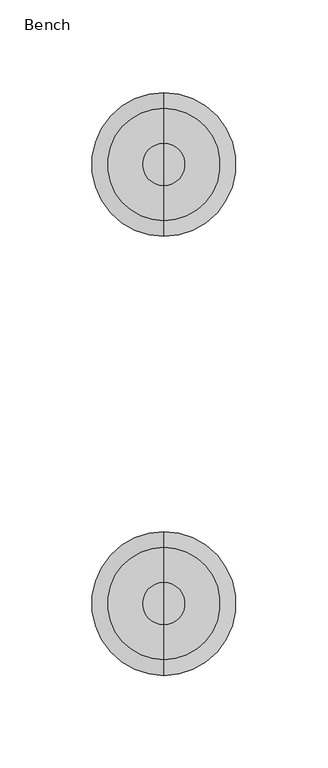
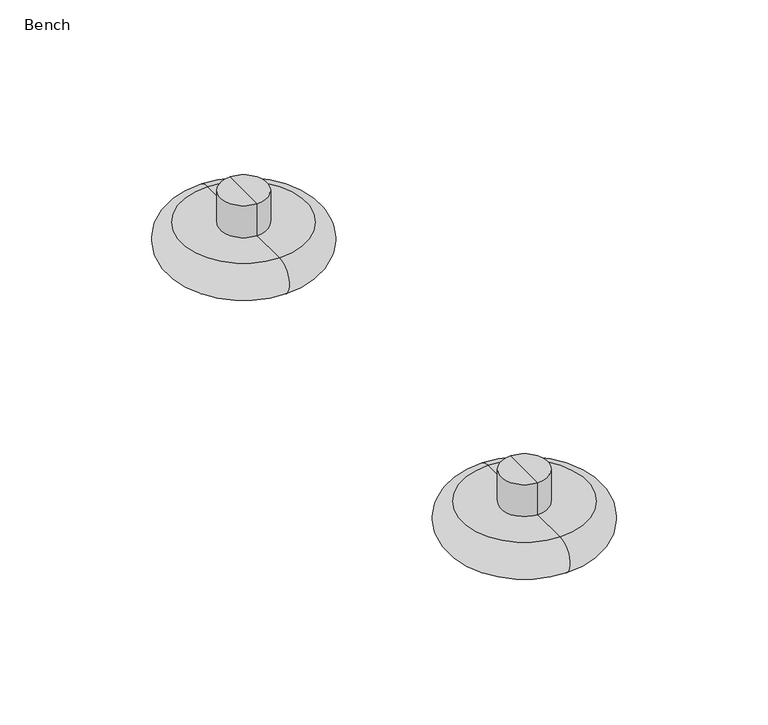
"""IFC4 building model written with IfcOpenShell, lengths in millimetres: furniture geometry, Steelcase Coalesse - Ripple - Seating - Upholstered Flat Bench : Bench."""

from ifc_helpers import new_model, si_unit, point, frame, origin, place, context, project, spatial, circle_curve, ellipse_curve, trimmed, source, transform, mapped, element, save
from ifc_brep_helpers import plane_surface, cylinder_surface, revolved_surface, advanced_brep


def bench_71243dd2(model_context):
    return source(origin(), model_context, "Body", "AdvancedBrep", [
        advanced_brep(
        [(139.1465165, -838.1401465, 33.6630229), (139.1465165, -815.4179869, 33.6630229), (139.1465165, -826.7790667, 33.6630229), (139.1465165, -838.1401465, 17.1812856), (139.1465165, -815.4179869, 17.1812856), (139.1465165, -857.148126, 17.1812856), (139.1465165, -796.4100074, 17.1812856), (139.1465165, -857.148126, 0.0), (139.1465165, -796.4100074, 0.0), (139.1465165, -826.7790667, 0.0)],
        [
            (0, 1, circle_curve(frame((139.1465165, -826.7790667, 33.6630229), z_axis=(0.0, 0.0, 1.0), x_axis=(0.0, 1.0, 0.0)), 11.3610798)),
            (1, 2),
            (2, 0),
            (1, 0, circle_curve(frame((139.1465165, -826.7790667, 33.6630229), z_axis=(0.0, 0.0, 1.0), x_axis=(0.0, 1.0, 0.0)), 11.3610798)),
            (3, 4, circle_curve(frame((139.1465165, -826.7790667, 17.1812856), z_axis=(0.0, 0.0, 1.0), x_axis=(0.0, 1.0, 0.0)), 11.3610798)),
            (4, 1),
            (0, 3),
            (4, 3, circle_curve(frame((139.1465165, -826.7790667, 17.1812856), z_axis=(0.0, 0.0, 1.0), x_axis=(0.0, 1.0, 0.0)), 11.3610798)),
            (5, 6, circle_curve(frame((139.1465165, -826.7790667, 17.1812856), z_axis=(0.0, 0.0, 1.0), x_axis=(0.0, 1.0, 0.0)), 30.3690593)),
            (6, 4),
            (3, 5),
            (6, 5, circle_curve(frame((139.1465165, -826.7790667, 17.1812856), z_axis=(0.0, 0.0, 1.0), x_axis=(0.0, 1.0, 0.0)), 30.3690593)),
            (7, 8, circle_curve(frame((139.1465165, -826.7790667, 0.0), z_axis=(0.0, 0.0, 1.0), x_axis=(0.0, 1.0, 0.0)), 30.3690593)),
            (8, 6, circle_curve(frame((139.1465165, -796.4100074, 8.5906428), z_axis=(1.0, 0.0, 0.0), x_axis=(0.0, -1.0, 0.0)), 8.5906428)),
            (5, 7, circle_curve(frame((139.1465165, -857.148126, 8.5906428), z_axis=(1.0, 0.0, 0.0), x_axis=(0.0, 1.0, 0.0)), 8.5906428)),
            (8, 7, circle_curve(frame((139.1465165, -826.7790667, 0.0), z_axis=(0.0, 0.0, 1.0), x_axis=(0.0, 1.0, 0.0)), 30.3690593)),
            (9, 8),
            (7, 9),
        ],
        [
            plane_surface(frame((139.1465165, -826.7790667, 33.6630229), z_axis=(0.0, 0.0, 1.0), x_axis=(0.0, 1.0, 0.0))),
            cylinder_surface(frame((139.1465165, -826.7790667, 34.264853), z_axis=(0.0, 0.0, -1.0), x_axis=(0.0, 1.0, 0.0)), 11.3610798),
            plane_surface(frame((139.1465165, -826.7790667, 17.1812856), z_axis=(0.0, 0.0, 1.0), x_axis=(0.0, 1.0, 0.0))),
            revolved_surface(trimmed(ellipse_curve(frame((139.1465165, -796.4100074, 8.5906428), z_axis=(-1.0, 0.0, 0.0), x_axis=(0.0, -1.0, 0.0)), 8.5906428, 8.5906428), [point((139.1465165, -796.4100074, 17.1812856))], [point((139.1465165, -796.4100074, 0.0))], True, "CARTESIAN"), (139.1465165, -826.7790667, 34.264853), (0.0, 0.0, -1.0)),
            plane_surface(frame((139.1465165, -826.7790667, 0.0), z_axis=(0.0, 0.0, -1.0), x_axis=(0.0, 1.0, 0.0))),
        ],
        [
            (0, [[1, 2, 3]]),
            (0, [[4, -3, -2]]),
            (1, [[5, 6, -1, 7]]),
            (1, [[8, -7, -4, -6]]),
            (2, [[9, 10, -5, 11]]),
            (2, [[12, -11, -8, -10]]),
            (3, [[13, 14, -9, 15]]),
            (3, [[16, -15, -12, -14]]),
            (4, [[17, -13, 18]]),
            (4, [[-18, -16, -17]]),
        ],
    ),
        advanced_brep(
        [(139.1465165, -600.8088965, 33.6630229), (139.1465165, -578.0867369, 33.6630229), (139.1465165, -589.4478167, 33.6630229), (139.1465165, -600.8088965, 17.1812856), (139.1465165, -578.0867369, 17.1812856), (139.1465165, -619.816876, 17.1812856), (139.1465165, -559.0787574, 17.1812856), (139.1465165, -619.816876, 0.0), (139.1465165, -559.0787574, 0.0), (139.1465165, -589.4478167, 0.0)],
        [
            (0, 1, circle_curve(frame((139.1465165, -589.4478167, 33.6630229), z_axis=(0.0, 0.0, 1.0), x_axis=(0.0, 1.0, 0.0)), 11.3610798)),
            (1, 2),
            (2, 0),
            (1, 0, circle_curve(frame((139.1465165, -589.4478167, 33.6630229), z_axis=(0.0, 0.0, 1.0), x_axis=(0.0, 1.0, 0.0)), 11.3610798)),
            (3, 4, circle_curve(frame((139.1465165, -589.4478167, 17.1812856), z_axis=(0.0, 0.0, 1.0), x_axis=(0.0, 1.0, 0.0)), 11.3610798)),
            (4, 1),
            (0, 3),
            (4, 3, circle_curve(frame((139.1465165, -589.4478167, 17.1812856), z_axis=(0.0, 0.0, 1.0), x_axis=(0.0, 1.0, 0.0)), 11.3610798)),
            (5, 6, circle_curve(frame((139.1465165, -589.4478167, 17.1812856), z_axis=(0.0, 0.0, 1.0), x_axis=(0.0, 1.0, 0.0)), 30.3690593)),
            (6, 4),
            (3, 5),
            (6, 5, circle_curve(frame((139.1465165, -589.4478167, 17.1812856), z_axis=(0.0, 0.0, 1.0), x_axis=(0.0, 1.0, 0.0)), 30.3690593)),
            (7, 8, circle_curve(frame((139.1465165, -589.4478167, 0.0), z_axis=(0.0, 0.0, 1.0), x_axis=(0.0, 1.0, 0.0)), 30.3690593)),
            (8, 6, circle_curve(frame((139.1465165, -559.0787574, 8.5906428), z_axis=(1.0, 0.0, 0.0), x_axis=(0.0, -1.0, 0.0)), 8.5906428)),
            (5, 7, circle_curve(frame((139.1465165, -619.816876, 8.5906428), z_axis=(1.0, 0.0, 0.0), x_axis=(0.0, 1.0, 0.0)), 8.5906428)),
            (8, 7, circle_curve(frame((139.1465165, -589.4478167, 0.0), z_axis=(0.0, 0.0, 1.0), x_axis=(0.0, 1.0, 0.0)), 30.3690593)),
            (9, 8),
            (7, 9),
        ],
        [
            plane_surface(frame((139.1465165, -589.4478167, 33.6630229), z_axis=(0.0, 0.0, 1.0), x_axis=(0.0, 1.0, 0.0))),
            cylinder_surface(frame((139.1465165, -589.4478167, 34.264853), z_axis=(0.0, 0.0, -1.0), x_axis=(0.0, 1.0, 0.0)), 11.3610798),
            plane_surface(frame((139.1465165, -589.4478167, 17.1812856), z_axis=(0.0, 0.0, 1.0), x_axis=(0.0, 1.0, 0.0))),
            revolved_surface(trimmed(ellipse_curve(frame((139.1465165, -559.0787574, 8.5906428), z_axis=(-1.0, 0.0, 0.0), x_axis=(0.0, -1.0, 0.0)), 8.5906428, 8.5906428), [point((139.1465165, -559.0787574, 17.1812856))], [point((139.1465165, -559.0787574, 0.0))], True, "CARTESIAN"), (139.1465165, -589.4478167, 34.264853), (0.0, 0.0, -1.0)),
            plane_surface(frame((139.1465165, -589.4478167, 0.0), z_axis=(0.0, 0.0, -1.0), x_axis=(0.0, 1.0, 0.0))),
        ],
        [
            (0, [[1, 2, 3]]),
            (0, [[4, -3, -2]]),
            (1, [[5, 6, -1, 7]]),
            (1, [[8, -7, -4, -6]]),
            (2, [[9, 10, -5, 11]]),
            (2, [[12, -11, -8, -10]]),
            (3, [[13, 14, -9, 15]]),
            (3, [[16, -15, -12, -14]]),
            (4, [[17, -13, 18]]),
            (4, [[-18, -16, -17]]),
        ],
    ),
    ])


if __name__ == "__main__":
    model = new_model("IFC4")
    model_context = context("Model", 3, world=origin())
    ifc_project = project(units=[si_unit("LENGTHUNIT", "METRE", prefix="MILLI")], contexts=[model_context])
    site = spatial("IfcSite", under=ifc_project)
    building = spatial("IfcBuilding", under=site)
    placement = place(None, origin())
    bench_shape = bench_71243dd2(model_context)
    element("IfcFurniture", 1, ObjectType="Steelcase Coalesse - Ripple - Seating - Upholstered Flat Bench : Bench", at=placement, inside=building, context=model_context, shape_type="MappedRepresentation", body=[
        mapped(bench_shape, transform((0.0, 0.0, 0.0), x_axis=(1.0, 0.0, 0.0), y_axis=(0.0, 1.0, 0.0), z_axis=(0.0, 0.0, 1.0))),
    ])
    save(model, "model.ifc")
